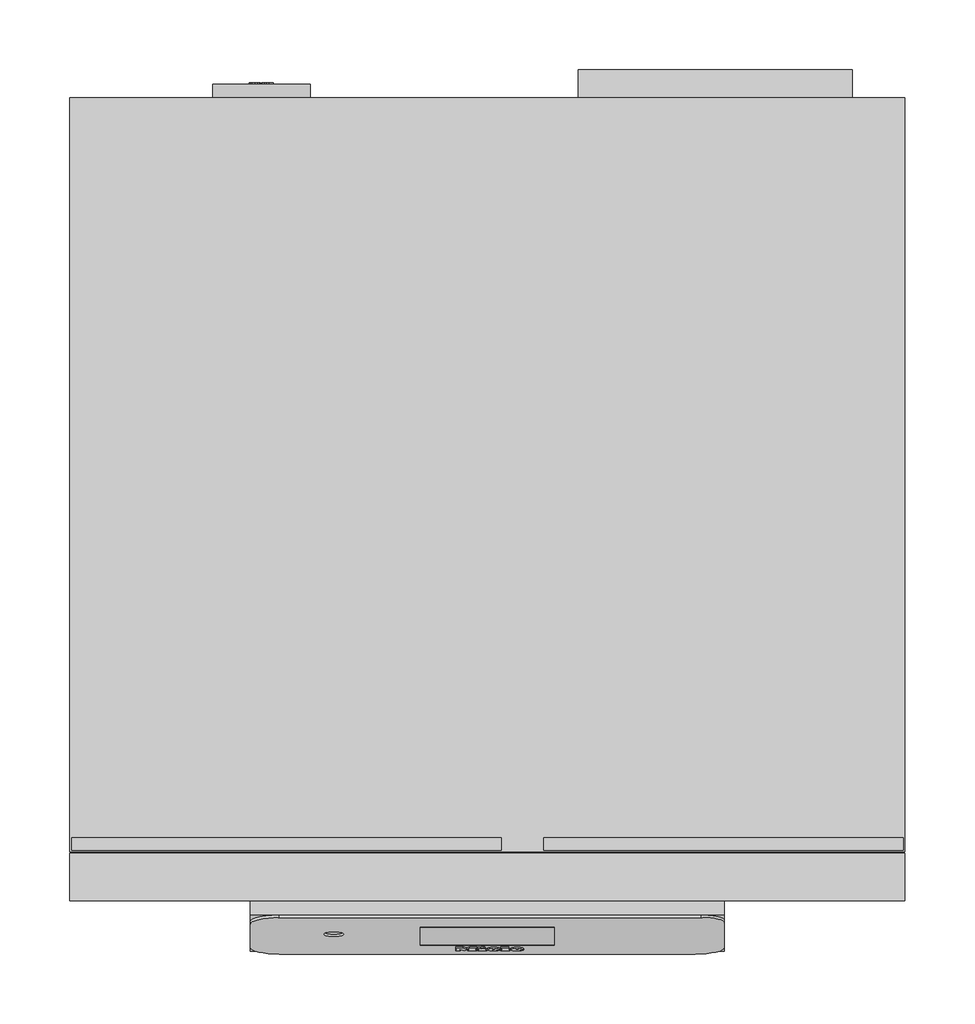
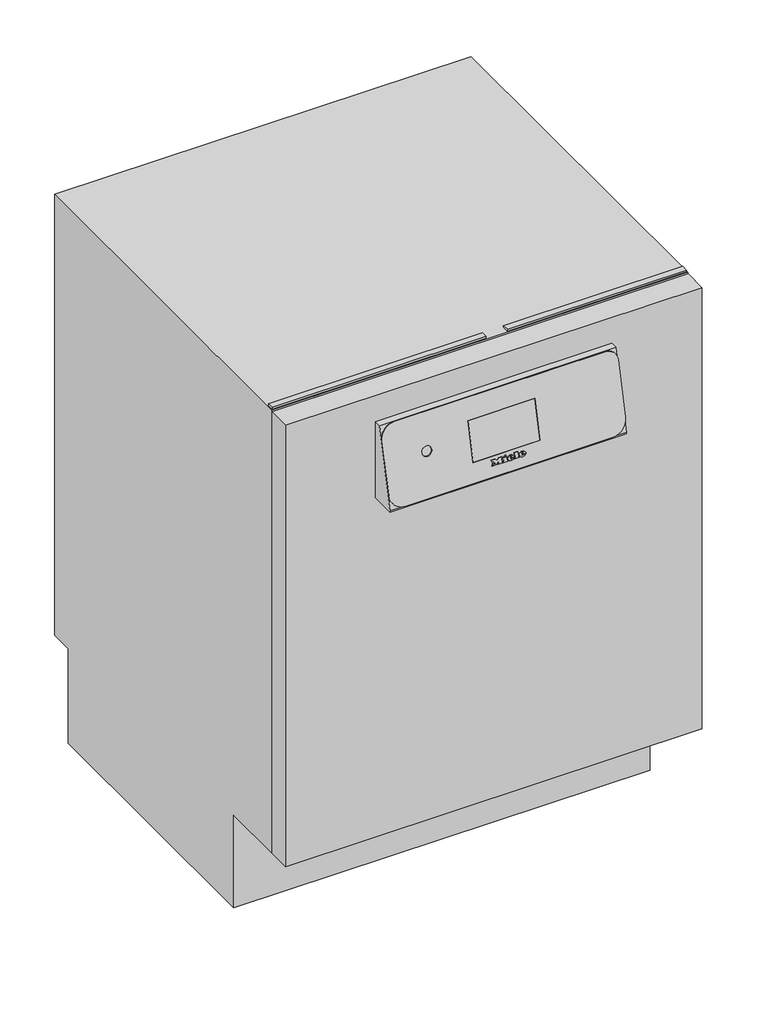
# Not in any storey: 1 proxy.
"""IFC4 building model written with IfcOpenShell, lengths in millimetres."""

from ifc_helpers import new_model, si_unit, origin, place, context, project, spatial, transform, mapped, element, save
from components import specialty_equipment_69813ec3

model = new_model("IFC4")

# Units and contexts
model_context = context("Model", 3, world=origin())
ifc_project = project(units=[si_unit("LENGTHUNIT", "METRE", prefix="MILLI")], contexts=[model_context])

# Site, building
site = spatial("IfcSite", under=ifc_project)
building = spatial("IfcBuilding", under=site)

# Proxy
placement = place(None, origin())
specialty_equipment_shape = specialty_equipment_69813ec3(model_context)
element("IfcBuildingElementProxy", 1, Name="12065780_NWE_PFD404UDOS_LW : 61040480_NWE_12065780_PFD404UDOS_LW", ObjectType="12065780_NWE_PFD404UDOS_LW : 61040480_NWE_12065780_PFD404UDOS_LW", at=placement, inside=building, context=model_context, shape_type="MappedRepresentation", body=[
    mapped(specialty_equipment_shape, transform((0.0, 0.0, 0.0), x_axis=(1.0, 0.0, 0.0), y_axis=(0.0, 1.0, 0.0), z_axis=(0.0, 0.0, 1.0))),
])

save(model, "model.ifc")
